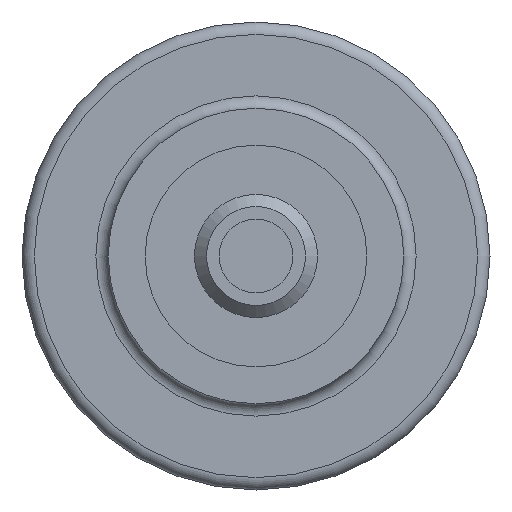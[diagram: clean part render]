
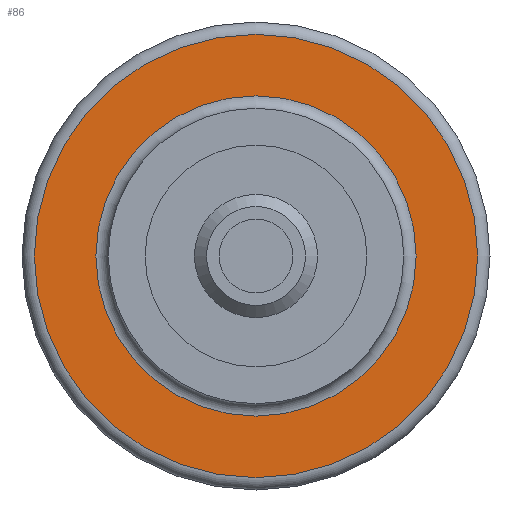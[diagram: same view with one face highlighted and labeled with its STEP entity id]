
A CAD part, front view. The second image highlights one B-rep face of the part: STEP entity #86.
In plain terms, the highlighted planar face has unit normal (0, -1, 0).
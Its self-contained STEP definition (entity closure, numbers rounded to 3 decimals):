
#86 = ADVANCED_FACE( '', ( #126, #127 ), #128, .F. );
#126 = FACE_BOUND( '', #181, .T. );
#127 = FACE_OUTER_BOUND( '', #182, .T. );
#128 = PLANE( '', #183 );
#181 = EDGE_LOOP( '', ( #258 ) );
#182 = EDGE_LOOP( '', ( #259 ) );
#183 = AXIS2_PLACEMENT_3D( '', #260, #261, #262 );
#258 = ORIENTED_EDGE( '', *, *, #309, .F. );
#259 = ORIENTED_EDGE( '', *, *, #308, .T. );
#260 = CARTESIAN_POINT( '', ( 9., 6., 0. ) );
#261 = DIRECTION( '', ( 0., 1., 0. ) );
#262 = DIRECTION( '', ( 0., 0., 1. ) );
#308 = EDGE_CURVE( '', #336, #336, #337, .T. );
#309 = EDGE_CURVE( '', #338, #338, #339, .T. );
#336 = VERTEX_POINT( '', #372 );
#337 = CIRCLE( '', #373, 9. );
#338 = VERTEX_POINT( '', #374 );
#339 = CIRCLE( '', #375, 6.5 );
#372 = CARTESIAN_POINT( '', ( 0., 6., -9. ) );
#373 = AXIS2_PLACEMENT_3D( '', #418, #419, #420 );
#374 = CARTESIAN_POINT( '', ( 0., 6., -6.5 ) );
#375 = AXIS2_PLACEMENT_3D( '', #421, #422, #423 );
#418 = CARTESIAN_POINT( '', ( 0., 6., 0. ) );
#419 = DIRECTION( '', ( 0., -1., 0. ) );
#420 = DIRECTION( '', ( 0., 0., -1. ) );
#421 = CARTESIAN_POINT( '', ( 0., 6., 0. ) );
#422 = DIRECTION( '', ( 0., -1., 0. ) );
#423 = DIRECTION( '', ( 0., 0., -1. ) );
